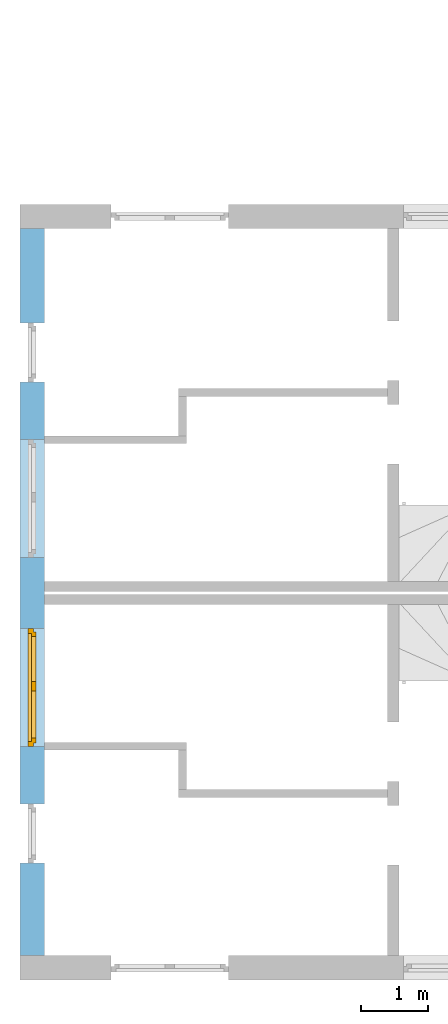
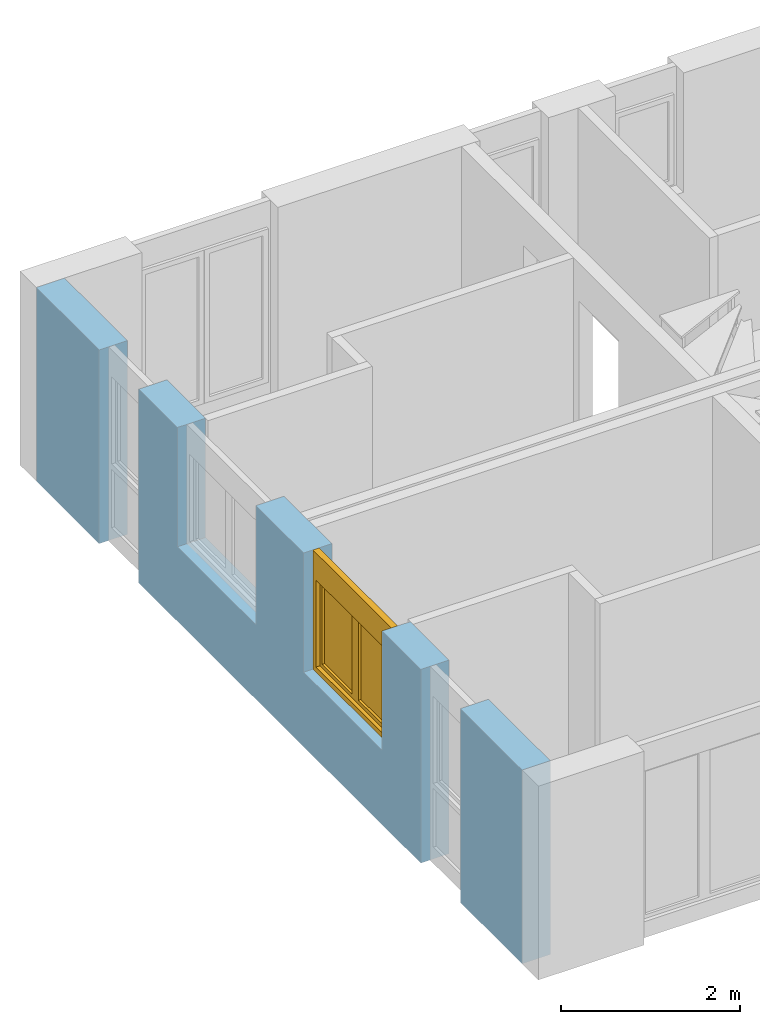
# One storey, part 6 of 42: 1 window, 4 openings, plus 1 element that does not belong to this part.
"""IFC2X3 building model written with IfcOpenShell, lengths in millimetres."""

from ifc_helpers import new_model, entity, si_unit, converted_unit, frame, frame_2d, origin, origin_with_axes, place, context, subcontext, project, spatial, rectangle, extrude, faceted_brep, material, layer, layer_set, layer_usage, type_object, element, fill, save


model = new_model("IFC2X3")

# Units and contexts
model_context = context("Model", 3, precision=1e-05, world=origin())
body_context = subcontext(model_context, "Body", "Model", "MODEL_VIEW")
ifc_project = project(units=[si_unit("LENGTHUNIT", "METRE", prefix="MILLI"), converted_unit("PLANEANGLEUNIT", "DEGREE", entity("IfcPlaneAngleMeasure", 0.0174532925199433), si_unit("PLANEANGLEUNIT", "RADIAN"), dimensions=[0, 0, 0, 0, 0, 0, 0]), si_unit("AREAUNIT", "SQUARE_METRE"), si_unit("VOLUMEUNIT", "CUBIC_METRE")], contexts=[model_context])

# Building, storey
building_placement = place(None, origin())
building = spatial("IfcBuilding", under=ifc_project, at=building_placement, Name="Gebäude", CompositionType="ELEMENT")
storey_placement = place(building_placement, frame((0.0, 0.0, 2730.0), z_axis=(0.0, 0.0, 1.0), x_axis=(1.0, 0.0, 0.0)))
storey = spatial("IfcBuildingStorey", under=building, at=storey_placement, Name="OG.- Grundriss", CompositionType="ELEMENT", Elevation=2730.0)

# Wall, openings, window
ifc_material_1 = material(Name="Poroton")
ifc_layer = layer(ifc_material_1, 365.0)
ifc_layer_set = layer_set([ifc_layer])
ifc_layer_usage = layer_usage(ifc_layer_set, "AXIS2", "POSITIVE", 0.0)
wall_placement = place(storey_placement, frame((130992.7928067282, 136524.8877324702, 0.0), z_axis=(0.0, 0.0, 1.0), x_axis=(1.336877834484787e-14, -1.0, 0.0)))
wall = element("IfcWallStandardCase", 1, at=wall_placement, inside=storey, material=ifc_layer_usage, Name="<Unnamed Element>", context=body_context, shape_type="SweptSolid", body=[
    extrude(rectangle(XDim=10884.99999999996, YDim=365.0, at=frame_2d((5442.499999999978, 182.5), x_axis=(1.0, 0.0))), origin_with_axes(), (0.0, 0.0, 1.0), 2650.0),
])
opening_1_placement = place(wall_placement, frame((5989.999999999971, 1.455191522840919e-13, 1020.0), z_axis=(0.0, 1.0, 0.0), x_axis=(0.0, 0.0, 1.0)))
opening_1 = element("IfcOpeningElement", 2, at=opening_1_placement, cuts=wall, Name="Fensteröffnung", ObjectType="Opening", context=body_context, shape_type="SweptSolid", body=[
    extrude(rectangle(XDim=1630.0, YDim=1760.0, at=frame_2d((815.0, 880.0), x_axis=(1.0, 0.0))), origin_with_axes(), (0.0, 0.0, 1.0), 365.0000000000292),
])
opening_2_placement = place(wall_placement, frame((8614.99999999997, -8.949427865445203e-12, 0.0), z_axis=(0.0, 1.0, 0.0), x_axis=(0.0, 0.0, 1.0)))
element("IfcOpeningElement", 3, at=opening_2_placement, cuts=wall, Name="Fensteröffnung", ObjectType="Opening", context=body_context, shape_type="SweptSolid", body=[
    extrude(rectangle(XDim=2650.0, YDim=885.0, at=frame_2d((1325.0, 442.5), x_axis=(1.0, 0.0))), origin_with_axes(), (0.0, 0.0, 1.0), 364.9999999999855),
])
opening_3_placement = place(wall_placement, frame((3159.987487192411, -1.688003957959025e-11, 1020.0), z_axis=(0.0, 1.0, 0.0), x_axis=(0.0, 0.0, 1.0)))
element("IfcOpeningElement", 4, at=opening_3_placement, cuts=wall, Name="Fensteröffnung", ObjectType="Opening", context=body_context, shape_type="SweptSolid", body=[
    extrude(rectangle(XDim=1630.0, YDim=1760.0, at=frame_2d((815.0, 880.0), x_axis=(1.0, 0.0))), origin_with_axes(), (0.0, 0.0, 1.0), 365.0),
])
opening_4_placement = place(wall_placement, frame((1409.987487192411, -5.966103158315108e-12, 0.0), z_axis=(0.0, 1.0, 0.0), x_axis=(0.0, 0.0, 1.0)))
element("IfcOpeningElement", 5, at=opening_4_placement, cuts=wall, Name="Fensteröffnung", ObjectType="Opening", context=body_context, shape_type="SweptSolid", body=[
    extrude(rectangle(XDim=2650.0, YDim=885.0, at=frame_2d((1325.0, 442.5), x_axis=(1.0, 0.0))), origin_with_axes(), (0.0, 0.0, 1.0), 365.0),
])
ifc_material_2 = material()
window_style = type_object("IfcWindowStyle", Name="Fenster", ConstructionType="NOTDEFINED", OperationType="USERDEFINED", ParameterTakesPrecedence=False, Sizeable=False)
window_placement = place(opening_1_placement, frame((0.0, 0.0, 0.0), z_axis=(1.0, 0.0, 0.0), x_axis=(0.0, 1.0, 0.0)))
window = element("IfcWindow", 6, at=window_placement, inside=storey, type_object=window_style, material=ifc_material_2, Name="Fenster", OverallHeight=1630.0, OverallWidth=1760.0, context=body_context, shape_type="Brep", body=[
    faceted_brep([(1.064603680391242e-12, 200.0000000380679, 1630.0), (1.064603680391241e-12, 200.0000000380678, -2.449293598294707e-15), (69.9999999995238, 200.0000000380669, -2.449293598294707e-15), (69.9999999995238, 200.000000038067, 1630.0), (0.0, 120.0000000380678, 2.449293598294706e-15), (1.323781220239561e-27, 120.0000000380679, 1630.0), (69.99999999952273, 120.000000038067, 1630.0), (69.99999999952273, 120.0000000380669, 2.449293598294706e-15), (1.064603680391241e-12, 200.0000000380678, -2.449293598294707e-15), (1.064603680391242e-12, 200.0000000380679, 1630.0), (1.323781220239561e-27, 120.0000000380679, 1630.0), (0.0, 120.0000000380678, 2.449293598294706e-15), (69.9999999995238, 200.0000000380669, -2.449293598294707e-15), (1.064603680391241e-12, 200.0000000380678, -2.449293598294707e-15), (0.0, 120.0000000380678, 2.449293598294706e-15), (69.99999999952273, 120.0000000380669, 2.449293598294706e-15), (69.9999999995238, 200.000000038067, 1630.0), (69.9999999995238, 200.0000000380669, -2.449293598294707e-15), (69.99999999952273, 120.0000000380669, 2.449293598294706e-15), (69.99999999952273, 120.000000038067, 1630.0), (1.064603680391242e-12, 200.0000000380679, 1630.0), (69.9999999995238, 200.000000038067, 1630.0), (69.99999999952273, 120.000000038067, 1630.0), (1.323781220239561e-27, 120.0000000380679, 1630.0)], [[[0, 1, 2, 3]], [[4, 5, 6, 7]], [[8, 9, 10, 11]], [[12, 13, 14, 15]], [[16, 17, 18, 19]], [[20, 21, 22, 23]]], orient=[[False], [False], [False], [False], [False], [False]]),
    faceted_brep([(1690.000000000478, 200.0000000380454, 1630.0), (1690.000000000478, 200.0000000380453, -2.449293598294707e-15), (1760.000000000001, 200.0000000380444, -2.449293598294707e-15), (1760.000000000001, 200.0000000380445, 1630.0), (1690.000000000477, 120.0000000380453, 2.449293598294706e-15), (1690.000000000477, 120.0000000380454, 1630.0), (1760.0, 120.0000000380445, 1630.0), (1760.0, 120.0000000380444, 2.449293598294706e-15), (1690.000000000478, 200.0000000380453, -2.449293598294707e-15), (1690.000000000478, 200.0000000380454, 1630.0), (1690.000000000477, 120.0000000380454, 1630.0), (1690.000000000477, 120.0000000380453, 2.449293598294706e-15), (1760.000000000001, 200.0000000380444, -2.449293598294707e-15), (1690.000000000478, 200.0000000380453, -2.449293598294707e-15), (1690.000000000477, 120.0000000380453, 2.449293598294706e-15), (1760.0, 120.0000000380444, 2.449293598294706e-15), (1760.000000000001, 200.0000000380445, 1630.0), (1760.000000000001, 200.0000000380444, -2.449293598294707e-15), (1760.0, 120.0000000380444, 2.449293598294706e-15), (1760.0, 120.0000000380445, 1630.0), (1690.000000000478, 200.0000000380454, 1630.0), (1760.000000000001, 200.0000000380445, 1630.0), (1760.0, 120.0000000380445, 1630.0), (1690.000000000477, 120.0000000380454, 1630.0)], [[[0, 1, 2, 3]], [[4, 5, 6, 7]], [[8, 9, 10, 11]], [[12, 13, 14, 15]], [[16, 17, 18, 19]], [[20, 21, 22, 23]]], orient=[[False], [False], [False], [False], [False], [False]]),
    faceted_brep([(69.9999999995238, 200.0000000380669, 69.99999999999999), (69.9999999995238, 200.0000000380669, -2.449293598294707e-15), (1690.000000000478, 200.0000000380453, -2.449293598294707e-15), (1690.000000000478, 200.0000000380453, 69.99999999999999), (69.99999999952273, 120.0000000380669, 2.449293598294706e-15), (69.99999999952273, 120.0000000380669, 69.99999999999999), (1690.000000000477, 120.0000000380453, 69.99999999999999), (1690.000000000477, 120.0000000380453, 2.449293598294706e-15), (69.9999999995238, 200.0000000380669, -2.449293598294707e-15), (69.9999999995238, 200.0000000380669, 69.99999999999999), (69.99999999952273, 120.0000000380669, 69.99999999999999), (69.99999999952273, 120.0000000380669, 2.449293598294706e-15), (1690.000000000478, 200.0000000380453, -2.449293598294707e-15), (69.9999999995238, 200.0000000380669, -2.449293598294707e-15), (69.99999999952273, 120.0000000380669, 2.449293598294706e-15), (1690.000000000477, 120.0000000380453, 2.449293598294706e-15), (1690.000000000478, 200.0000000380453, 69.99999999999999), (1690.000000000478, 200.0000000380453, -2.449293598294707e-15), (1690.000000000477, 120.0000000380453, 2.449293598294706e-15), (1690.000000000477, 120.0000000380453, 69.99999999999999), (69.9999999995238, 200.0000000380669, 69.99999999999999), (1690.000000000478, 200.0000000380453, 69.99999999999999), (1690.000000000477, 120.0000000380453, 69.99999999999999), (69.99999999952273, 120.0000000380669, 69.99999999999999)], [[[0, 1, 2, 3]], [[4, 5, 6, 7]], [[8, 9, 10, 11]], [[12, 13, 14, 15]], [[16, 17, 18, 19]], [[20, 21, 22, 23]]], orient=[[False], [False], [False], [False], [False], [False]]),
    faceted_brep([(69.9999999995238, 200.000000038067, 1630.0), (69.9999999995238, 200.000000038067, 1260.0), (1690.000000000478, 200.0000000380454, 1260.0), (1690.000000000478, 200.0000000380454, 1630.0), (69.99999999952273, 120.0000000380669, 1260.0), (69.99999999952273, 120.000000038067, 1630.0), (1690.000000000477, 120.0000000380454, 1630.0), (1690.000000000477, 120.0000000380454, 1260.0), (69.9999999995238, 200.000000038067, 1260.0), (69.9999999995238, 200.000000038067, 1630.0), (69.99999999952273, 120.000000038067, 1630.0), (69.99999999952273, 120.0000000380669, 1260.0), (1690.000000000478, 200.0000000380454, 1260.0), (69.9999999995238, 200.000000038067, 1260.0), (69.99999999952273, 120.0000000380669, 1260.0), (1690.000000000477, 120.0000000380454, 1260.0), (1690.000000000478, 200.0000000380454, 1630.0), (1690.000000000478, 200.0000000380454, 1260.0), (1690.000000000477, 120.0000000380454, 1260.0), (1690.000000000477, 120.0000000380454, 1630.0), (69.9999999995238, 200.000000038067, 1630.0), (1690.000000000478, 200.0000000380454, 1630.0), (1690.000000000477, 120.0000000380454, 1630.0), (69.99999999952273, 120.000000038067, 1630.0)], [[[0, 1, 2, 3]], [[4, 5, 6, 7]], [[8, 9, 10, 11]], [[12, 13, 14, 15]], [[16, 17, 18, 19]], [[20, 21, 22, 23]]], orient=[[False], [False], [False], [False], [False], [False]]),
    faceted_brep([(49.9999999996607, 240.0000000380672, 1280.0), (49.9999999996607, 240.0000000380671, 49.99999999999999), (119.9999999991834, 240.0000000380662, 49.99999999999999), (119.9999999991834, 240.0000000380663, 1280.0), (49.99999999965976, 170.0000000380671, 50.0), (49.99999999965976, 170.0000000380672, 1280.0), (119.9999999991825, 170.0000000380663, 1280.0), (119.9999999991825, 170.0000000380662, 50.0), (49.9999999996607, 240.0000000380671, 49.99999999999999), (49.9999999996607, 240.0000000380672, 1280.0), (49.99999999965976, 170.0000000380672, 1280.0), (49.99999999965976, 170.0000000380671, 50.0), (119.9999999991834, 240.0000000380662, 49.99999999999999), (49.9999999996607, 240.0000000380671, 49.99999999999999), (49.99999999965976, 170.0000000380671, 50.0), (119.9999999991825, 170.0000000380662, 50.0), (119.9999999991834, 240.0000000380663, 1280.0), (119.9999999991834, 240.0000000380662, 49.99999999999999), (119.9999999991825, 170.0000000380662, 50.0), (119.9999999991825, 170.0000000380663, 1280.0), (49.9999999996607, 240.0000000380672, 1280.0), (119.9999999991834, 240.0000000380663, 1280.0), (119.9999999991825, 170.0000000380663, 1280.0), (49.99999999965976, 170.0000000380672, 1280.0)], [[[0, 1, 2, 3]], [[4, 5, 6, 7]], [[8, 9, 10, 11]], [[12, 13, 14, 15]], [[16, 17, 18, 19]], [[20, 21, 22, 23]]], orient=[[False], [False], [False], [False], [False], [False]]),
    faceted_brep([(789.5000000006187, 240.0000000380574, 1280.0), (789.5000000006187, 240.0000000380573, 49.99999999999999), (859.5000000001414, 240.0000000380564, 49.99999999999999), (859.5000000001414, 240.0000000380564, 1280.0), (789.5000000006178, 170.0000000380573, 50.0), (789.5000000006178, 170.0000000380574, 1280.0), (859.5000000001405, 170.0000000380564, 1280.0), (859.5000000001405, 170.0000000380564, 50.0), (789.5000000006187, 240.0000000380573, 49.99999999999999), (789.5000000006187, 240.0000000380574, 1280.0), (789.5000000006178, 170.0000000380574, 1280.0), (789.5000000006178, 170.0000000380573, 50.0), (859.5000000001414, 240.0000000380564, 49.99999999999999), (789.5000000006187, 240.0000000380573, 49.99999999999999), (789.5000000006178, 170.0000000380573, 50.0), (859.5000000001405, 170.0000000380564, 50.0), (859.5000000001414, 240.0000000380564, 1280.0), (859.5000000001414, 240.0000000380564, 49.99999999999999), (859.5000000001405, 170.0000000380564, 50.0), (859.5000000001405, 170.0000000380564, 1280.0), (789.5000000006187, 240.0000000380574, 1280.0), (859.5000000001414, 240.0000000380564, 1280.0), (859.5000000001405, 170.0000000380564, 1280.0), (789.5000000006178, 170.0000000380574, 1280.0)], [[[0, 1, 2, 3]], [[4, 5, 6, 7]], [[8, 9, 10, 11]], [[12, 13, 14, 15]], [[16, 17, 18, 19]], [[20, 21, 22, 23]]], orient=[[False], [False], [False], [False], [False], [False]]),
    faceted_brep([(119.9999999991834, 240.0000000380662, 120.0), (119.9999999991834, 240.0000000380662, 49.99999999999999), (789.5000000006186, 240.0000000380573, 49.99999999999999), (789.5000000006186, 240.0000000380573, 120.0), (119.9999999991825, 170.0000000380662, 50.0), (119.9999999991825, 170.0000000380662, 120.0), (789.5000000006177, 170.0000000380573, 120.0), (789.5000000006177, 170.0000000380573, 50.0), (119.9999999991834, 240.0000000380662, 49.99999999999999), (119.9999999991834, 240.0000000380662, 120.0), (119.9999999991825, 170.0000000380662, 120.0), (119.9999999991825, 170.0000000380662, 50.0), (789.5000000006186, 240.0000000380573, 49.99999999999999), (119.9999999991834, 240.0000000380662, 49.99999999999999), (119.9999999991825, 170.0000000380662, 50.0), (789.5000000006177, 170.0000000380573, 50.0), (789.5000000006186, 240.0000000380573, 120.0), (789.5000000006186, 240.0000000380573, 49.99999999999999), (789.5000000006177, 170.0000000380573, 50.0), (789.5000000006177, 170.0000000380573, 120.0), (119.9999999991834, 240.0000000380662, 120.0), (789.5000000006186, 240.0000000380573, 120.0), (789.5000000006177, 170.0000000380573, 120.0), (119.9999999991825, 170.0000000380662, 120.0)], [[[0, 1, 2, 3]], [[4, 5, 6, 7]], [[8, 9, 10, 11]], [[12, 13, 14, 15]], [[16, 17, 18, 19]], [[20, 21, 22, 23]]], orient=[[False], [False], [False], [False], [False], [False]]),
    faceted_brep([(119.9999999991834, 240.0000000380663, 1280.0), (119.9999999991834, 240.0000000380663, 1210.0), (789.5000000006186, 240.0000000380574, 1210.0), (789.5000000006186, 240.0000000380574, 1280.0), (119.9999999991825, 170.0000000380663, 1210.0), (119.9999999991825, 170.0000000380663, 1280.0), (789.5000000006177, 170.0000000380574, 1280.0), (789.5000000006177, 170.0000000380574, 1210.0), (119.9999999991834, 240.0000000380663, 1210.0), (119.9999999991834, 240.0000000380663, 1280.0), (119.9999999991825, 170.0000000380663, 1280.0), (119.9999999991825, 170.0000000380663, 1210.0), (789.5000000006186, 240.0000000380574, 1210.0), (119.9999999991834, 240.0000000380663, 1210.0), (119.9999999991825, 170.0000000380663, 1210.0), (789.5000000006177, 170.0000000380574, 1210.0), (789.5000000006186, 240.0000000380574, 1280.0), (789.5000000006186, 240.0000000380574, 1210.0), (789.5000000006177, 170.0000000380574, 1210.0), (789.5000000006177, 170.0000000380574, 1280.0), (119.9999999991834, 240.0000000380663, 1280.0), (789.5000000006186, 240.0000000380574, 1280.0), (789.5000000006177, 170.0000000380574, 1280.0), (119.9999999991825, 170.0000000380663, 1280.0)], [[[0, 1, 2, 3]], [[4, 5, 6, 7]], [[8, 9, 10, 11]], [[12, 13, 14, 15]], [[16, 17, 18, 19]], [[20, 21, 22, 23]]], orient=[[False], [False], [False], [False], [False], [False]]),
    faceted_brep([(860.5000000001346, 240.0000000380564, 1280.0), (860.5000000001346, 240.0000000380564, 49.99999999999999), (930.4999999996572, 240.0000000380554, 49.99999999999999), (930.4999999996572, 240.0000000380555, 1280.0), (860.5000000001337, 170.0000000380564, 50.0), (860.5000000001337, 170.0000000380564, 1280.0), (930.4999999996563, 170.0000000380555, 1280.0), (930.4999999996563, 170.0000000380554, 50.0), (860.5000000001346, 240.0000000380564, 49.99999999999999), (860.5000000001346, 240.0000000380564, 1280.0), (860.5000000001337, 170.0000000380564, 1280.0), (860.5000000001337, 170.0000000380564, 50.0), (930.4999999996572, 240.0000000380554, 49.99999999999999), (860.5000000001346, 240.0000000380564, 49.99999999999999), (860.5000000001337, 170.0000000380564, 50.0), (930.4999999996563, 170.0000000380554, 50.0), (930.4999999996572, 240.0000000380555, 1280.0), (930.4999999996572, 240.0000000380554, 49.99999999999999), (930.4999999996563, 170.0000000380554, 50.0), (930.4999999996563, 170.0000000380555, 1280.0), (860.5000000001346, 240.0000000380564, 1280.0), (930.4999999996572, 240.0000000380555, 1280.0), (930.4999999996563, 170.0000000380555, 1280.0), (860.5000000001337, 170.0000000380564, 1280.0)], [[[0, 1, 2, 3]], [[4, 5, 6, 7]], [[8, 9, 10, 11]], [[12, 13, 14, 15]], [[16, 17, 18, 19]], [[20, 21, 22, 23]]], orient=[[False], [False], [False], [False], [False], [False]]),
    faceted_brep([(1640.00000000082, 240.000000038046, 1280.0), (1640.00000000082, 240.000000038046, 49.99999999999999), (1710.000000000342, 240.0000000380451, 49.99999999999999), (1710.000000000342, 240.0000000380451, 1280.0), (1640.000000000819, 170.000000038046, 50.0), (1640.000000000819, 170.000000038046, 1280.0), (1710.000000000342, 170.0000000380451, 1280.0), (1710.000000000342, 170.000000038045, 50.0), (1640.00000000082, 240.000000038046, 49.99999999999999), (1640.00000000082, 240.000000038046, 1280.0), (1640.000000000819, 170.000000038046, 1280.0), (1640.000000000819, 170.000000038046, 50.0), (1710.000000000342, 240.0000000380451, 49.99999999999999), (1640.00000000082, 240.000000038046, 49.99999999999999), (1640.000000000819, 170.000000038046, 50.0), (1710.000000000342, 170.000000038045, 50.0), (1710.000000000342, 240.0000000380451, 1280.0), (1710.000000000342, 240.0000000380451, 49.99999999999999), (1710.000000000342, 170.000000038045, 50.0), (1710.000000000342, 170.0000000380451, 1280.0), (1640.00000000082, 240.000000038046, 1280.0), (1710.000000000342, 240.0000000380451, 1280.0), (1710.000000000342, 170.0000000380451, 1280.0), (1640.000000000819, 170.000000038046, 1280.0)], [[[0, 1, 2, 3]], [[4, 5, 6, 7]], [[8, 9, 10, 11]], [[12, 13, 14, 15]], [[16, 17, 18, 19]], [[20, 21, 22, 23]]], orient=[[False], [False], [False], [False], [False], [False]]),
    faceted_brep([(930.4999999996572, 240.0000000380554, 120.0), (930.4999999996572, 240.0000000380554, 49.99999999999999), (1640.00000000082, 240.000000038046, 49.99999999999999), (1640.00000000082, 240.000000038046, 120.0), (930.4999999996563, 170.0000000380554, 50.0), (930.4999999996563, 170.0000000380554, 120.0), (1640.000000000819, 170.000000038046, 120.0), (1640.000000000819, 170.000000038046, 50.0), (930.4999999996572, 240.0000000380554, 49.99999999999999), (930.4999999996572, 240.0000000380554, 120.0), (930.4999999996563, 170.0000000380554, 120.0), (930.4999999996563, 170.0000000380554, 50.0), (1640.00000000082, 240.000000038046, 49.99999999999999), (930.4999999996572, 240.0000000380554, 49.99999999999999), (930.4999999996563, 170.0000000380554, 50.0), (1640.000000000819, 170.000000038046, 50.0), (1640.00000000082, 240.000000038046, 120.0), (1640.00000000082, 240.000000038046, 49.99999999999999), (1640.000000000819, 170.000000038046, 50.0), (1640.000000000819, 170.000000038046, 120.0), (930.4999999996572, 240.0000000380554, 120.0), (1640.00000000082, 240.000000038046, 120.0), (1640.000000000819, 170.000000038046, 120.0), (930.4999999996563, 170.0000000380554, 120.0)], [[[0, 1, 2, 3]], [[4, 5, 6, 7]], [[8, 9, 10, 11]], [[12, 13, 14, 15]], [[16, 17, 18, 19]], [[20, 21, 22, 23]]], orient=[[False], [False], [False], [False], [False], [False]]),
    faceted_brep([(930.4999999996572, 240.0000000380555, 1280.0), (930.4999999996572, 240.0000000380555, 1210.0), (1640.00000000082, 240.000000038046, 1210.0), (1640.00000000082, 240.000000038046, 1280.0), (930.4999999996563, 170.0000000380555, 1210.0), (930.4999999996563, 170.0000000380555, 1280.0), (1640.000000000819, 170.000000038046, 1280.0), (1640.000000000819, 170.000000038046, 1210.0), (930.4999999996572, 240.0000000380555, 1210.0), (930.4999999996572, 240.0000000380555, 1280.0), (930.4999999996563, 170.0000000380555, 1280.0), (930.4999999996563, 170.0000000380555, 1210.0), (1640.00000000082, 240.000000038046, 1210.0), (930.4999999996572, 240.0000000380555, 1210.0), (930.4999999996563, 170.0000000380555, 1210.0), (1640.000000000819, 170.000000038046, 1210.0), (1640.00000000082, 240.000000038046, 1280.0), (1640.00000000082, 240.000000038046, 1210.0), (1640.000000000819, 170.000000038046, 1210.0), (1640.000000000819, 170.000000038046, 1280.0), (930.4999999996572, 240.0000000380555, 1280.0), (1640.00000000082, 240.000000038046, 1280.0), (1640.000000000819, 170.000000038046, 1280.0), (930.4999999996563, 170.0000000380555, 1280.0)], [[[0, 1, 2, 3]], [[4, 5, 6, 7]], [[8, 9, 10, 11]], [[12, 13, 14, 15]], [[16, 17, 18, 19]], [[20, 21, 22, 23]]], orient=[[False], [False], [False], [False], [False], [False]]),
    faceted_brep([(119.999999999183, 205.0000000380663, 120.0), (789.5000000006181, 205.0000000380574, 120.0), (789.5000000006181, 205.0000000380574, 1210.0), (119.999999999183, 205.0000000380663, 1210.0), (119.999999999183, 204.0000000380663, 120.0), (119.999999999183, 204.0000000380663, 1210.0), (789.5000000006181, 204.0000000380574, 1210.0), (789.5000000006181, 204.0000000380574, 120.0), (119.999999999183, 205.0000000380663, 120.0), (119.999999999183, 204.0000000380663, 120.0), (789.5000000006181, 204.0000000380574, 120.0), (789.5000000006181, 205.0000000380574, 120.0), (789.5000000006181, 205.0000000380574, 120.0), (789.5000000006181, 204.0000000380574, 120.0), (789.5000000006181, 204.0000000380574, 1210.0), (789.5000000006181, 205.0000000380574, 1210.0), (789.5000000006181, 205.0000000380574, 1210.0), (789.5000000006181, 204.0000000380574, 1210.0), (119.999999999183, 204.0000000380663, 1210.0), (119.999999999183, 205.0000000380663, 1210.0), (119.999999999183, 205.0000000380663, 1210.0), (119.999999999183, 204.0000000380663, 1210.0), (119.999999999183, 204.0000000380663, 120.0), (119.999999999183, 205.0000000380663, 120.0)], [[[0, 1, 2, 3]], [[4, 5, 6, 7]], [[8, 9, 10, 11]], [[12, 13, 14, 15]], [[16, 17, 18, 19]], [[20, 21, 22, 23]]], orient=[[False], [False], [False], [False], [False], [False]]),
    faceted_brep([(930.4999999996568, 205.0000000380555, 120.0), (1640.000000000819, 205.000000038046, 120.0), (1640.000000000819, 205.0000000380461, 1210.0), (930.4999999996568, 205.0000000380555, 1210.0), (930.4999999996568, 204.0000000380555, 120.0), (930.4999999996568, 204.0000000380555, 1210.0), (1640.000000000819, 204.0000000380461, 1210.0), (1640.000000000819, 204.000000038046, 120.0), (930.4999999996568, 205.0000000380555, 120.0), (930.4999999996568, 204.0000000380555, 120.0), (1640.000000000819, 204.000000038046, 120.0), (1640.000000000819, 205.000000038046, 120.0), (1640.000000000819, 205.000000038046, 120.0), (1640.000000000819, 204.000000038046, 120.0), (1640.000000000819, 204.0000000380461, 1210.0), (1640.000000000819, 205.0000000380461, 1210.0), (1640.000000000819, 205.0000000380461, 1210.0), (1640.000000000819, 204.0000000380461, 1210.0), (930.4999999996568, 204.0000000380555, 1210.0), (930.4999999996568, 205.0000000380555, 1210.0), (930.4999999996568, 205.0000000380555, 1210.0), (930.4999999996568, 204.0000000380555, 1210.0), (930.4999999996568, 204.0000000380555, 120.0), (930.4999999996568, 205.0000000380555, 120.0)], [[[0, 1, 2, 3]], [[4, 5, 6, 7]], [[8, 9, 10, 11]], [[12, 13, 14, 15]], [[16, 17, 18, 19]], [[20, 21, 22, 23]]], orient=[[False], [False], [False], [False], [False], [False]]),
])
fill(opening_1, window)

save(model, "model.ifc")
